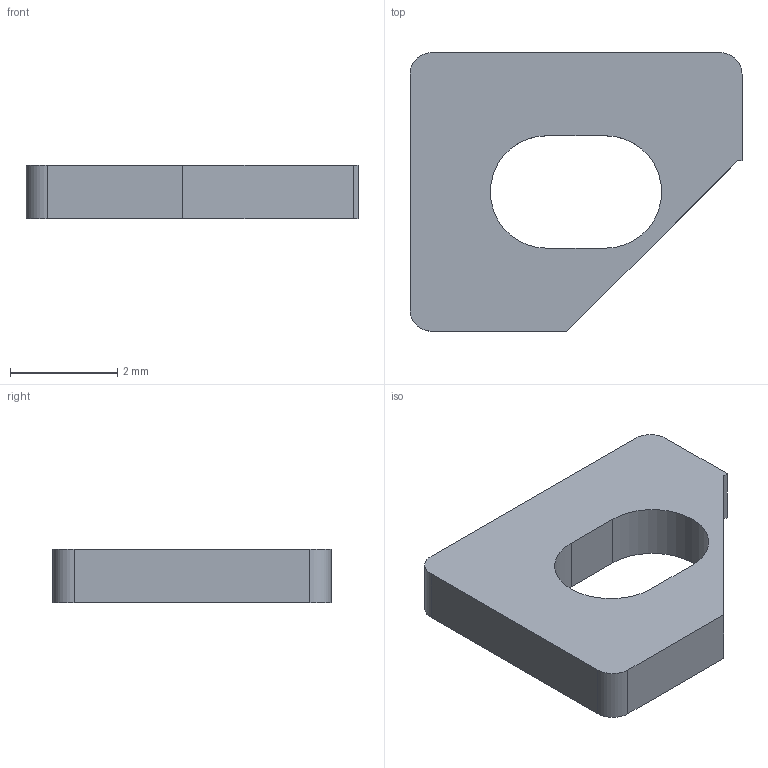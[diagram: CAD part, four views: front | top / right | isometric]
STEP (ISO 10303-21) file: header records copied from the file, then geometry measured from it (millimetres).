
FILE_DESCRIPTION(('Open CASCADE Model'),'2;1');
FILE_NAME('Open CASCADE Shape Model','2026-09-13T21:07:18',('Author'),( 'Open CASCADE'),'Open CASCADE STEP processor 7.9','Open CASCADE 7.9' ,'Unknown');
FILE_SCHEMA(('AUTOMOTIVE_DESIGN { 1 0 10303 214 1 1 1 1 }'));
Length unit declared in the file: millimetre
Products named in the file (1): Open CASCADE STEP translator 7.9 3
Bounding box: 6.2 x 5.2 x 1 mm (x, y, z)
Volume: 21 mm3; surface area: 71.3 mm2
Topology: 1 solids, 1 shells, 15 faces, 39 edges, 26 vertices
Faces by surface type: plane 10, cylinder 5
Entity records: 982 total; most frequent: CARTESIAN_POINT 215, DIRECTION 133, ORIENTED_EDGE 78, PCURVE 78, DEFINITIONAL_REPRESENTATION 78, LINE 77, VECTOR 77, EDGE_CURVE 39
